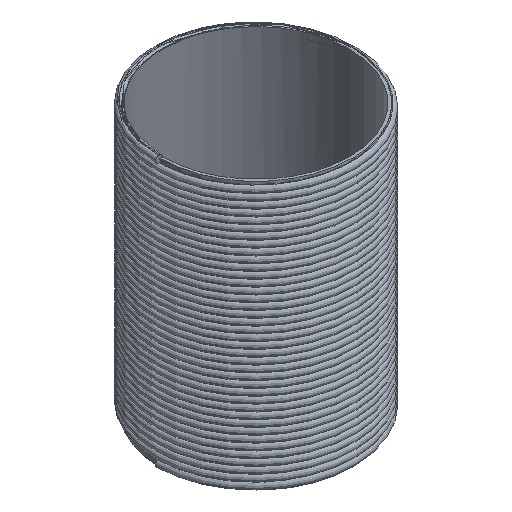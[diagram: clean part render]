
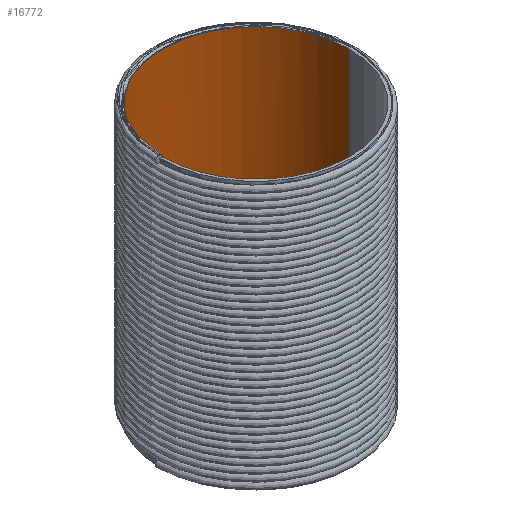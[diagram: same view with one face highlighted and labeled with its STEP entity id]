
A CAD part, isometric view. The second image highlights one B-rep face of the part: STEP entity #16772.
In plain terms, the highlighted cylindrical face has radius 13.975 mm (diameter 27.95 mm), a partial arc.
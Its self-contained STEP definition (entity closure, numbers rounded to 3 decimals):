
#241 = ORIENTED_EDGE ( 'NONE', *, *, #2870, .F. ) ;
#266 = DIRECTION ( 'NONE',  ( 0., 0., 1. ) ) ;
#268 = DIRECTION ( 'NONE',  ( 1., 0., 0. ) ) ;
#276 = CARTESIAN_POINT ( 'NONE',  ( 0., 0., -40. ) ) ;
#412 = AXIS2_PLACEMENT_3D ( 'NONE', #10159, #10166, #10184 ) ;
#1113 = CARTESIAN_POINT ( 'NONE',  ( -13.975, 0., 0. ) ) ;
#1152 = CARTESIAN_POINT ( 'NONE',  ( -13.975, 0., -40. ) ) ;
#1165 = CARTESIAN_POINT ( 'NONE',  ( 13.975, 0., -40. ) ) ;
#1167 = CARTESIAN_POINT ( 'NONE',  ( 13.975, 0., 0. ) ) ;
#2870 = EDGE_CURVE ( 'NONE', #17366, #17367, #3429, .T. ) ;
#2892 = EDGE_CURVE ( 'NONE', #18445, #18453, #3420, .T. ) ;
#3119 = CYLINDRICAL_SURFACE ( 'NONE', #412, 13.975 ) ;
#3159 = FACE_OUTER_BOUND ( 'NONE', #17203, .T. ) ;
#3420 = CIRCLE ( 'NONE', #16956, 13.975 ) ;
#3429 = CIRCLE ( 'NONE', #16966, 13.975 ) ;
#3435 = LINE ( 'NONE', #18050, #3440 ) ;
#3440 = VECTOR ( 'NONE', #18052, 1000. ) ;
#3483 = LINE ( 'NONE', #18173, #3492 ) ;
#3492 = VECTOR ( 'NONE', #18183, 1000. ) ;
#3581 = EDGE_CURVE ( 'NONE', #17366, #18445, #3435, .T. ) ;
#3599 = EDGE_CURVE ( 'NONE', #17367, #18453, #3483, .T. ) ;
#10159 = CARTESIAN_POINT ( 'NONE',  ( 0., 0., -40. ) ) ;
#10166 = DIRECTION ( 'NONE',  ( 0., 0., 1. ) ) ;
#10184 = DIRECTION ( 'NONE',  ( 1., 0., 0. ) ) ;
#16017 = ORIENTED_EDGE ( 'NONE', *, *, #3581, .T. ) ;
#16026 = ORIENTED_EDGE ( 'NONE', *, *, #3599, .F. ) ;
#16029 = ORIENTED_EDGE ( 'NONE', *, *, #2892, .T. ) ;
#16772 = ADVANCED_FACE ( 'NONE', ( #3159 ), #3119, .F. ) ;
#16956 = AXIS2_PLACEMENT_3D ( 'NONE', #18067, #18051, #18026 ) ;
#16966 = AXIS2_PLACEMENT_3D ( 'NONE', #276, #266, #268 ) ;
#17203 = EDGE_LOOP ( 'NONE', ( #16026, #241, #16017, #16029 ) ) ;
#17366 = VERTEX_POINT ( 'NONE', #1165 ) ;
#17367 = VERTEX_POINT ( 'NONE', #1152 ) ;
#18026 = DIRECTION ( 'NONE',  ( 1., 0., 0. ) ) ;
#18050 = CARTESIAN_POINT ( 'NONE',  ( 13.975, 0., -40. ) ) ;
#18051 = DIRECTION ( 'NONE',  ( 0., 0., 1. ) ) ;
#18052 = DIRECTION ( 'NONE',  ( 0., 0., 1. ) ) ;
#18067 = CARTESIAN_POINT ( 'NONE',  ( 0., 0., 0. ) ) ;
#18173 = CARTESIAN_POINT ( 'NONE',  ( -13.975, 0., -40. ) ) ;
#18183 = DIRECTION ( 'NONE',  ( 0., 0., 1. ) ) ;
#18445 = VERTEX_POINT ( 'NONE', #1167 ) ;
#18453 = VERTEX_POINT ( 'NONE', #1113 ) ;
